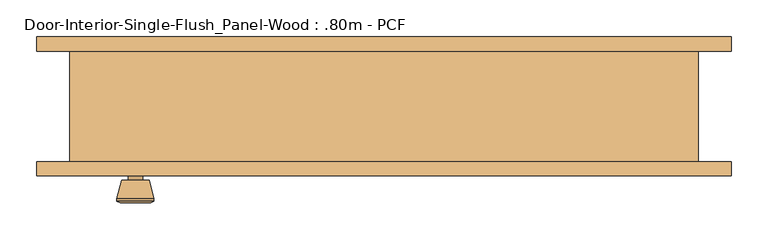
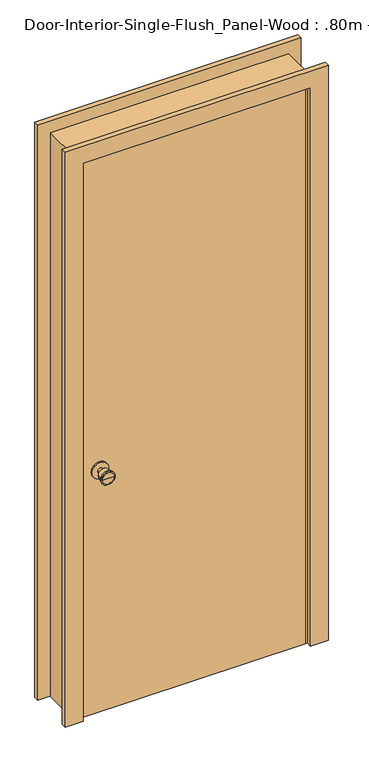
"""IFC4 building model written with IfcOpenShell, lengths in millimetres: door geometry, Door-Interior-Single-Flush_Panel-Wood : .80m - PCF."""

from ifc_helpers import new_model, si_unit, point, frame, frame_2d, origin, origin_with_axes, place, context, project, spatial, polyline, circle_curve, trimmed, segment, composite_curve, outline, extrude, faceted_brep, source, transform, mapped, element, save
from ifc_brep_helpers import plane_surface, cylinder_surface, revolved_surface, advanced_brep


def door_interior_single_flush_panel_wood_80m_pcf_cb5077a7(model_context):
    return source(origin(), model_context, "Body", "SolidModel", [
        advanced_brep(
        [(-336.5, -30.9, 914.4), (-346.5, -30.9, 914.4), (-326.5, -30.9, 914.4), (-316.0241324, 18.1, 914.4), (-356.9758676, 18.1, 914.4), (-336.5, 18.1, 914.4), (-311.5, 16.2721319, 914.4), (-361.5, 16.2721319, 914.4), (-311.5, 12.8084537, 914.4), (-361.5, 12.8084537, 914.4), (-317.863764, -11.9, 914.4), (-355.136236, -11.9, 914.4), (-326.5, -11.9, 914.4), (-346.5, -11.9, 914.4)],
        [
            (0, 1),
            (1, 2, circle_curve(frame((-336.5, -30.9, 914.4), z_axis=(0.0, -1.0, 0.0), x_axis=(-1.0, 0.0, 0.0)), 10.0)),
            (2, 0),
            (2, 1, circle_curve(frame((-336.5, -30.9, 914.4), z_axis=(0.0, -1.0, 0.0), x_axis=(-1.0, 0.0, 0.0)), 10.0)),
            (3, 4, circle_curve(frame((-336.5, 18.1, 914.4), z_axis=(0.0, 1.0, 0.0), x_axis=(-1.0, 0.0, 0.0)), 20.4758676)),
            (4, 5),
            (5, 3),
            (4, 3, circle_curve(frame((-336.5, 18.1, 914.4), z_axis=(0.0, 1.0, 0.0), x_axis=(-1.0, 0.0, 0.0)), 20.4758676)),
            (6, 7, circle_curve(frame((-336.5, 16.2721319, 914.4), z_axis=(0.0, 1.0, 0.0), x_axis=(-1.0, 0.0, 0.0)), 25.0)),
            (7, 4),
            (3, 6),
            (7, 6, circle_curve(frame((-336.5, 16.2721319, 914.4), z_axis=(0.0, 1.0, 0.0), x_axis=(-1.0, 0.0, 0.0)), 25.0)),
            (8, 9, circle_curve(frame((-336.5, 12.8084537, 914.4), z_axis=(0.0, 1.0, 0.0), x_axis=(-1.0, 0.0, 0.0)), 25.0)),
            (9, 7),
            (6, 8),
            (9, 8, circle_curve(frame((-336.5, 12.8084537, 914.4), z_axis=(0.0, 1.0, 0.0), x_axis=(-1.0, 0.0, 0.0)), 25.0)),
            (10, 11, circle_curve(frame((-336.5, -11.9, 914.4), z_axis=(0.0, 1.0, 0.0), x_axis=(-1.0, 0.0, 0.0)), 18.636236)),
            (11, 9),
            (8, 10),
            (11, 10, circle_curve(frame((-336.5, -11.9, 914.4), z_axis=(0.0, 1.0, 0.0), x_axis=(-1.0, 0.0, 0.0)), 18.636236)),
            (12, 13, circle_curve(frame((-336.5, -11.9, 914.4), z_axis=(0.0, 1.0, 0.0), x_axis=(-1.0, 0.0, 0.0)), 10.0)),
            (13, 11),
            (10, 12),
            (13, 12, circle_curve(frame((-336.5, -11.9, 914.4), z_axis=(0.0, 1.0, 0.0), x_axis=(-1.0, 0.0, 0.0)), 10.0)),
            (1, 13),
            (12, 2),
        ],
        [
            plane_surface(frame((-336.5, -30.9, 914.4), z_axis=(0.0, -1.0, 0.0), x_axis=(-1.0, 0.0, 0.0))),
            plane_surface(frame((-336.5, 18.1, 914.4), z_axis=(0.0, 1.0, 0.0), x_axis=(-1.0, 0.0, 0.0))),
            revolved_surface(polyline([(-356.9758676, 18.1, 914.4), (-361.5, 16.2721319, 914.4)]), (-336.5, -30.9, 914.4), (0.0, -1.0, 0.0)),
            cylinder_surface(frame((-336.5, -30.9, 914.4), z_axis=(0.0, -1.0, 0.0), x_axis=(-1.0, 0.0, 0.0)), 25.0),
            revolved_surface(polyline([(-361.5, 12.8084537, 914.4), (-355.136236, -11.9, 914.4)]), (-336.5, -30.9, 914.4), (0.0, -1.0, 0.0)),
            plane_surface(frame((-336.5, -11.9, 914.4), z_axis=(0.0, -1.0, 0.0), x_axis=(-1.0, 0.0, 0.0))),
            cylinder_surface(frame((-336.5, -30.9, 914.4), z_axis=(0.0, -1.0, 0.0), x_axis=(-1.0, 0.0, 0.0)), 10.0),
        ],
        [
            (0, [[1, 2, 3]]),
            (0, [[-3, 4, -1]]),
            (1, [[5, 6, 7]]),
            (1, [[8, -7, -6]]),
            (2, [[9, 10, -5, 11]]),
            (2, [[12, -11, -8, -10]]),
            (3, [[13, 14, -9, 15]]),
            (3, [[16, -15, -12, -14]]),
            (4, [[17, 18, -13, 19]]),
            (4, [[20, -19, -16, -18]]),
            (5, [[21, 22, -17, 23]]),
            (5, [[24, -23, -20, -22]]),
            (6, [[-2, 25, -21, 26]]),
            (6, [[-4, -26, -24, -25]]),
        ],
    ),
        extrude(outline(composite_curve([segment(trimmed(circle_curve(frame_2d((914.4, -336.5)), 30.0), [point((914.4, -366.5))], [point((914.4, -306.5))], False, "CARTESIAN"), True, "CONTINUOUS"), segment(trimmed(circle_curve(frame_2d((914.4, -336.5)), 30.0), [point((914.4, -306.5))], [point((914.4, -366.5))], False, "CARTESIAN"), True, "CONTINUOUS")], self_intersect=False)), frame((0.0, -36.9, 0.0), z_axis=(0.0, 1.0, 0.0), x_axis=(0.0, 0.0, 1.0)), (0.0, 0.0, 1.0), 6.0),
        advanced_brep(
        [(-336.5, -77.825, 914.4), (-326.5, -77.825, 914.4), (-346.5, -77.825, 914.4), (-316.0241324, -126.825, 914.4), (-336.5, -126.825, 914.4), (-356.9758676, -126.825, 914.4), (-311.5, -124.9971319, 914.4), (-361.5, -124.9971319, 914.4), (-311.5, -121.5334537, 914.4), (-361.5, -121.5334537, 914.4), (-317.863764, -96.825, 914.4), (-355.136236, -96.825, 914.4), (-326.5, -96.825, 914.4), (-346.5, -96.825, 914.4)],
        [
            (0, 1),
            (1, 2, circle_curve(frame((-336.5, -77.825, 914.4), z_axis=(0.0, 1.0, 0.0), x_axis=(-1.0, 0.0, 0.0)), 10.0)),
            (2, 0),
            (2, 1, circle_curve(frame((-336.5, -77.825, 914.4), z_axis=(0.0, 1.0, 0.0), x_axis=(-1.0, 0.0, 0.0)), 10.0)),
            (3, 4),
            (4, 5),
            (5, 3, circle_curve(frame((-336.5, -126.825, 914.4), z_axis=(0.0, -1.0, 0.0), x_axis=(-1.0, 0.0, 0.0)), 20.4758676)),
            (3, 5, circle_curve(frame((-336.5, -126.825, 914.4), z_axis=(0.0, -1.0, 0.0), x_axis=(-1.0, 0.0, 0.0)), 20.4758676)),
            (6, 3),
            (5, 7),
            (7, 6, circle_curve(frame((-336.5, -124.9971319, 914.4), z_axis=(0.0, -1.0, 0.0), x_axis=(-1.0, 0.0, 0.0)), 25.0)),
            (6, 7, circle_curve(frame((-336.5, -124.9971319, 914.4), z_axis=(0.0, -1.0, 0.0), x_axis=(-1.0, 0.0, 0.0)), 25.0)),
            (8, 6),
            (7, 9),
            (9, 8, circle_curve(frame((-336.5, -121.5334537, 914.4), z_axis=(0.0, -1.0, 0.0), x_axis=(-1.0, 0.0, 0.0)), 25.0)),
            (8, 9, circle_curve(frame((-336.5, -121.5334537, 914.4), z_axis=(0.0, -1.0, 0.0), x_axis=(-1.0, 0.0, 0.0)), 25.0)),
            (10, 8),
            (9, 11),
            (11, 10, circle_curve(frame((-336.5, -96.825, 914.4), z_axis=(0.0, -1.0, 0.0), x_axis=(-1.0, 0.0, 0.0)), 18.636236)),
            (10, 11, circle_curve(frame((-336.5, -96.825, 914.4), z_axis=(0.0, -1.0, 0.0), x_axis=(-1.0, 0.0, 0.0)), 18.636236)),
            (12, 10),
            (11, 13),
            (13, 12, circle_curve(frame((-336.5, -96.825, 914.4), z_axis=(0.0, -1.0, 0.0), x_axis=(-1.0, 0.0, 0.0)), 10.0)),
            (12, 13, circle_curve(frame((-336.5, -96.825, 914.4), z_axis=(0.0, -1.0, 0.0), x_axis=(-1.0, 0.0, 0.0)), 10.0)),
            (1, 12),
            (13, 2),
        ],
        [
            plane_surface(frame((-336.5, -77.825, 914.4), z_axis=(0.0, 1.0, 0.0), x_axis=(-1.0, 0.0, 0.0))),
            plane_surface(frame((-336.5, -126.825, 914.4), z_axis=(0.0, -1.0, 0.0), x_axis=(-1.0, 0.0, 0.0))),
            revolved_surface(polyline([(-356.9758676, -126.825, 914.4), (-361.5, -124.9971319, 914.4)]), (-336.5, -77.825, 914.4), (0.0, 1.0, 0.0)),
            cylinder_surface(frame((-336.5, -77.825, 914.4), z_axis=(0.0, 1.0, 0.0), x_axis=(-1.0, 0.0, 0.0)), 25.0),
            revolved_surface(polyline([(-361.5, -121.5334537, 914.4), (-355.136236, -96.825, 914.4)]), (-336.5, -77.825, 914.4), (0.0, 1.0, 0.0)),
            plane_surface(frame((-336.5, -96.825, 914.4), z_axis=(0.0, 1.0, 0.0), x_axis=(-1.0, 0.0, 0.0))),
            cylinder_surface(frame((-336.5, -77.825, 914.4), z_axis=(0.0, 1.0, 0.0), x_axis=(-1.0, 0.0, 0.0)), 10.0),
        ],
        [
            (0, [[1, 2, 3]]),
            (0, [[-3, 4, -1]]),
            (1, [[5, 6, 7]]),
            (1, [[-6, -5, 8]]),
            (2, [[9, -7, 10, 11]]),
            (2, [[-10, -8, -9, 12]]),
            (3, [[13, -11, 14, 15]]),
            (3, [[-14, -12, -13, 16]]),
            (4, [[17, -15, 18, 19]]),
            (4, [[-18, -16, -17, 20]]),
            (5, [[21, -19, 22, 23]]),
            (5, [[-22, -20, -21, 24]]),
            (6, [[25, -23, 26, -2]]),
            (6, [[-26, -24, -25, -4]]),
        ],
    ),
        extrude(outline(composite_curve([segment(trimmed(circle_curve(frame_2d((914.4, -336.5)), 30.0), [point((914.4, -366.5))], [point((914.4, -306.5))], False, "CARTESIAN"), True, "CONTINUOUS"), segment(trimmed(circle_curve(frame_2d((914.4, -336.5)), 30.0), [point((914.4, -306.5))], [point((914.4, -366.5))], False, "CARTESIAN"), True, "CONTINUOUS")], self_intersect=False)), frame((0.0, -77.825, 0.0), z_axis=(0.0, 1.0, 0.0), x_axis=(0.0, 0.0, 1.0)), (0.0, 0.0, 1.0), 6.0),
        extrude(outline(polyline([(400.0, -36.9), (400.0, -71.825), (-400.0, -71.825), (-400.0, -36.9), (400.0, -36.9)])), origin_with_axes(), (0.0, 0.0, 1.0), 2100.0),
        faceted_brep([(425.4, -71.825, 0.0), (400.0, -71.825, 0.0), (400.0, -36.9, 0.0), (387.3, -36.9, 0.0), (387.3, -1.975, 0.0), (400.0, -1.975, 0.0), (400.0, 78.175, 0.0), (425.4, 78.175, 0.0), (425.4, 78.175, 2125.4), (425.4, -71.825, 2125.4), (400.0, 78.175, 2100.0), (-400.0, 78.175, 2100.0), (-400.0, 78.175, 0.0), (-425.4, 78.175, 0.0), (-425.4, 78.175, 2125.4), (400.0, -1.975, 2100.0), (387.3, -1.975, 2087.3), (-387.3, -1.975, 2087.3), (-387.3, -1.975, 0.0), (-400.0, -1.975, 0.0), (-400.0, -1.975, 2100.0), (387.3, -36.9, 2087.3), (400.0, -36.9, 2100.0), (-400.0, -36.9, 2100.0), (-400.0, -36.9, 0.0), (-387.3, -36.9, 0.0), (-387.3, -36.9, 2087.3), (400.0, -71.825, 2100.0), (-425.4, -71.825, 2125.4), (-425.4, -71.825, 0.0), (-400.0, -71.825, 0.0), (-400.0, -71.825, 2100.0)], [[[0, 1, 2, 3, 4, 5, 6, 7]], [[7, 8, 9, 0]], [[6, 10, 11, 12, 13, 14, 8, 7]], [[5, 15, 10, 6]], [[4, 16, 17, 18, 19, 20, 15, 5]], [[3, 21, 16, 4]], [[2, 22, 23, 24, 25, 26, 21, 3]], [[1, 27, 22, 2]], [[0, 9, 28, 29, 30, 31, 27, 1]], [[8, 14, 28, 9]], [[15, 20, 11, 10]], [[21, 26, 17, 16]], [[27, 31, 23, 22]], [[29, 13, 12, 19, 18, 25, 24, 30]], [[14, 13, 29, 28]], [[20, 19, 12, 11]], [[26, 25, 18, 17]], [[31, 30, 24, 23]]]),
        extrude(outline(polyline([(0.0, 469.85), (2169.85, 469.85), (2169.85, -469.85), (0.0, -469.85), (0.0, -406.35), (2106.35, -406.35), (2106.35, 406.35), (0.0, 406.35), (0.0, 469.85)])), frame((0.0, 78.175, 0.0), z_axis=(0.0, 1.0, 0.0), x_axis=(0.0, 0.0, 1.0)), (0.0, 0.0, 1.0), 19.05),
        extrude(outline(polyline([(0.0, 469.85), (2169.85, 469.85), (2169.85, -469.85), (0.0, -469.85), (0.0, -406.35), (2106.35, -406.35), (2106.35, 406.35), (0.0, 406.35), (0.0, 469.85)])), frame((0.0, -90.875, 0.0), z_axis=(0.0, 1.0, 0.0), x_axis=(0.0, 0.0, 1.0)), (0.0, 0.0, 1.0), 19.05),
    ])


if __name__ == "__main__":
    model = new_model("IFC4")
    model_context = context("Model", 3, world=origin())
    ifc_project = project(units=[si_unit("LENGTHUNIT", "METRE", prefix="MILLI")], contexts=[model_context])
    site = spatial("IfcSite", under=ifc_project)
    building = spatial("IfcBuilding", under=site)
    placement = place(None, origin())
    door_interior_single_flush_panel_wood_80m_pcf_shape = door_interior_single_flush_panel_wood_80m_pcf_cb5077a7(model_context)
    element("IfcDoor", 1, ObjectType="Door-Interior-Single-Flush_Panel-Wood : .80m - PCF", at=placement, inside=building, context=model_context, shape_type="MappedRepresentation", body=[
        mapped(door_interior_single_flush_panel_wood_80m_pcf_shape, transform((0.0, 0.0, 0.0), x_axis=(1.0, 0.0, 0.0), y_axis=(0.0, 1.0, 0.0), z_axis=(0.0, 0.0, 1.0))),
    ])
    save(model, "model.ifc")
